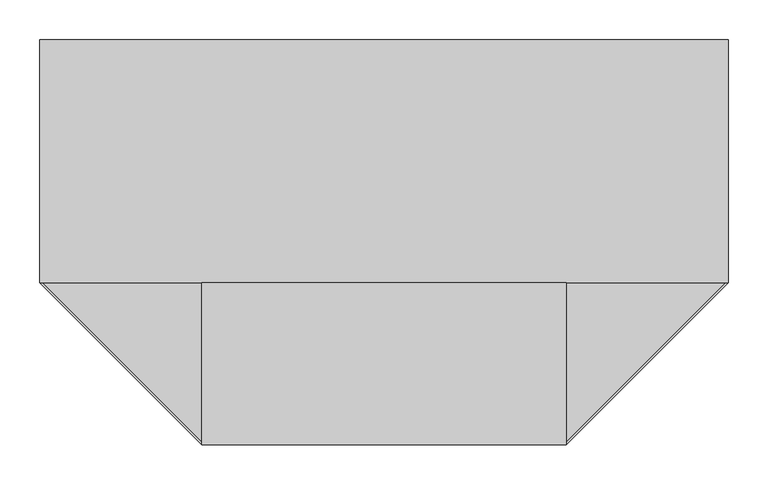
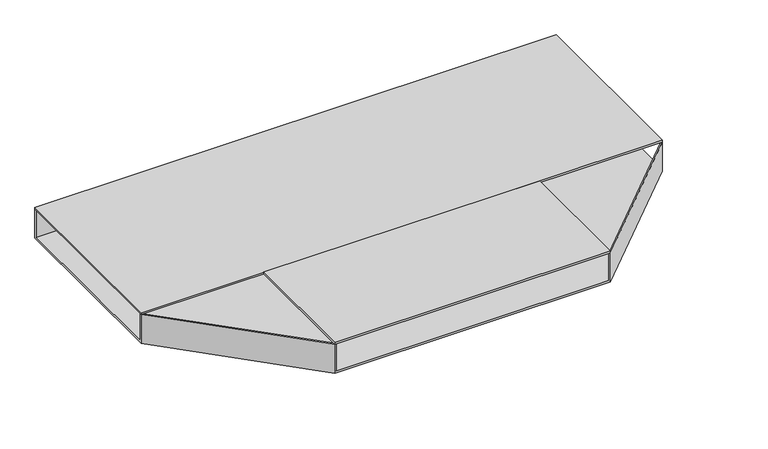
"""IFC4 building model written with IfcOpenShell, lengths in millimetres: cable carrier fitting geometry, Tee-Cablofil-Wire_Mesh_Cable_Tray : Y Junctions."""

from ifc_helpers import new_model, si_unit, frame, origin, place, context, project, spatial, polyline, outline, extrude, faceted_brep, source, transform, mapped, element, save


def cable_carrier_fitting_f272e647(model_context):
    return source(origin(), model_context, "Body", "SolidModel", [
        extrude(outline(polyline([(228.6, -152.4), (228.6, -355.6), (-228.6, -355.6), (-228.6, -152.4), (228.6, -152.4)])), frame((0.0, 0.0, 25.4), z_axis=(0.0, 0.0, 1.0), x_axis=(1.0, 0.0, 0.0)), (0.0, 0.0, 1.0), 3.175),
        extrude(outline(polyline([(431.8, 152.4), (431.8, -152.4), (-431.8, -152.4), (-431.8, 152.4), (431.8, 152.4)])), frame((0.0, 0.0, 25.4), z_axis=(0.0, 0.0, 1.0), x_axis=(1.0, 0.0, 0.0)), (0.0, 0.0, 1.0), 3.175),
        faceted_brep([(-431.8, 149.225, -22.225), (-431.8, -149.225, -22.225), (-225.425, -355.6, -22.225), (225.425, -355.6, -22.225), (431.8, -149.225, -22.225), (431.8, 149.225, -22.225), (431.8, 152.4, -25.4), (431.8, -152.4, -25.4), (228.6, -355.6, -25.4), (-228.6, -355.6, -25.4), (-431.8, -152.4, -25.4), (-431.8, 152.4, -25.4), (-431.8, 152.4, 25.4), (431.8, 152.4, 25.4), (-431.8, -152.4, 25.4), (-431.8, -149.225, 25.4), (-431.8, 149.225, 25.4), (-228.6, -355.6, 25.4), (228.6, -355.6, 25.4), (225.425, -355.6, 25.4), (-225.425, -355.6, 25.4), (431.8, -152.4, 25.4), (431.8, 149.225, 25.4), (431.8, -149.225, 25.4)], [[[0, 1, 2, 3, 4, 5]], [[6, 7, 8, 9, 10, 11]], [[6, 11, 12, 13]], [[12, 11, 10, 14, 15, 1, 0, 16]], [[14, 10, 9, 17]], [[17, 9, 8, 18, 19, 3, 2, 20]], [[18, 8, 7, 21]], [[21, 7, 6, 13, 22, 5, 4, 23]], [[13, 12, 16, 22]], [[20, 15, 14, 17]], [[23, 19, 18, 21]], [[22, 16, 0, 5]], [[15, 20, 2, 1]], [[19, 23, 4, 3]]]),
    ])


if __name__ == "__main__":
    model = new_model("IFC4")
    model_context = context("Model", 3, world=origin())
    ifc_project = project(units=[si_unit("LENGTHUNIT", "METRE", prefix="MILLI")], contexts=[model_context])
    site = spatial("IfcSite", under=ifc_project)
    building = spatial("IfcBuilding", under=site)
    placement = place(None, origin())
    cable_carrier_fitting_shape = cable_carrier_fitting_f272e647(model_context)
    element("IfcCableCarrierFitting", 1, ObjectType="Tee-Cablofil-Wire_Mesh_Cable_Tray : Y Junctions", at=placement, inside=building, context=model_context, shape_type="MappedRepresentation", body=[
        mapped(cable_carrier_fitting_shape, transform((0.0, 0.0, 0.0), x_axis=(1.0, 0.0, 0.0), y_axis=(0.0, 1.0, 0.0), z_axis=(0.0, 0.0, 1.0))),
    ])
    save(model, "model.ifc")
